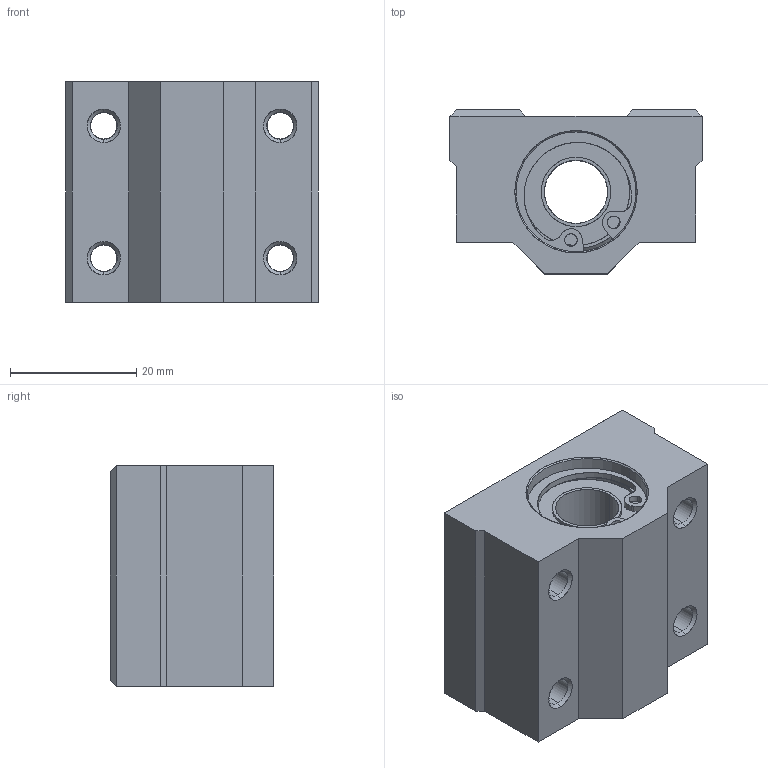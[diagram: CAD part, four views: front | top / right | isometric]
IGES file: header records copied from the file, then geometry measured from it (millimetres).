
Start section: SolidWorks IGES file using analytic representation for surfaces
Global section: file name: D:\SOLIDWORKS PROEKTI\freelance cnc cat\VTORA SERIJA\SC-UU\SC10UU.IGS; native system: SolidWorks 2016; preprocessor: SolidWorks 2016; author: User; date: 170805.185727; units: millimetre
Bounding box: 40 x 26 x 35 mm (x, y, z)
Surface area: 12569.3 mm2 (no closed solid volume)
Topology: 0 solids, 0 shells, 318 faces, 7550 edges, 9166 vertices
Faces by surface type: bspline 211, revolution 107
